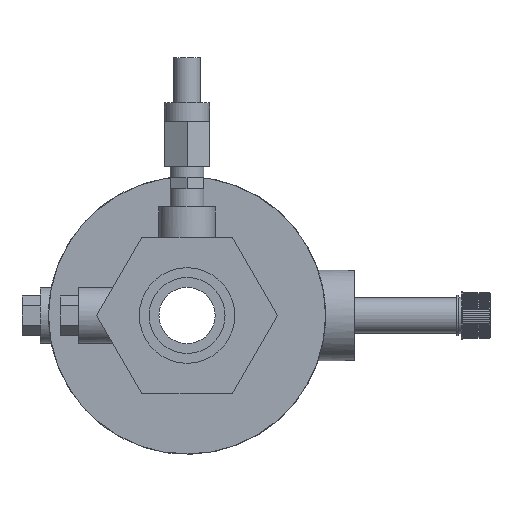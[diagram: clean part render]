
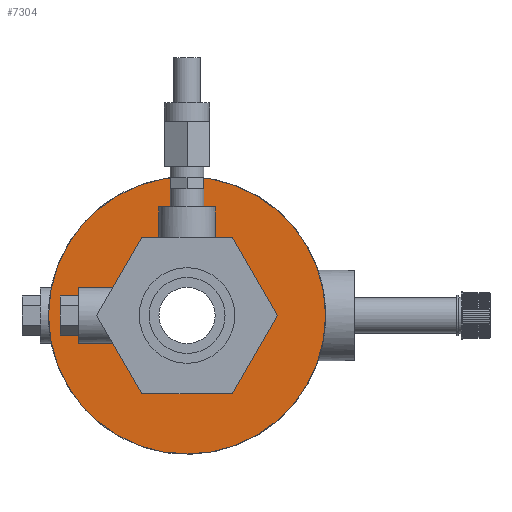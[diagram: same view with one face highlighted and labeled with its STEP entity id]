
A CAD part, left-side view. The second image highlights one B-rep face of the part: STEP entity #7304.
In plain terms, the highlighted planar face has unit normal (-1, 0, 0).
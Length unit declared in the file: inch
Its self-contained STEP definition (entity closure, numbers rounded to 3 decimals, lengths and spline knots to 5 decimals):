
#205=FACE_BOUND('',#1325,.T.);
#250=CIRCLE('',#7523,1.53174);
#251=CIRCLE('',#7524,1.53174);
#258=CIRCLE('',#7537,0.81689);
#260=CIRCLE('',#7539,0.81689);
#261=CIRCLE('',#7540,0.81689);
#941=FACE_OUTER_BOUND('',#1324,.T.);
#1324=EDGE_LOOP('',(#5881,#5882));
#1325=EDGE_LOOP('',(#5883,#5884,#5885,#5886,#5887,#5888,#5889,#5890,#5891));
#1568=LINE('',#10568,#2174);
#1574=LINE('',#10600,#2180);
#1575=LINE('',#10602,#2181);
#1581=LINE('',#10643,#2187);
#1584=LINE('',#10648,#2190);
#1585=LINE('',#10650,#2191);
#2174=VECTOR('',#8481,0.3937);
#2180=VECTOR('',#8493,0.3937);
#2181=VECTOR('',#8496,0.3937);
#2187=VECTOR('',#8518,0.3937);
#2190=VECTOR('',#8523,0.3937);
#2191=VECTOR('',#8526,0.3937);
#2746=VERTEX_POINT('',#10486);
#2754=VERTEX_POINT('',#10526);
#2761=VERTEX_POINT('',#10564);
#2763=VERTEX_POINT('',#10567);
#2767=VERTEX_POINT('',#10596);
#2768=VERTEX_POINT('',#10598);
#2769=VERTEX_POINT('',#10604);
#2771=VERTEX_POINT('',#10609);
#2774=VERTEX_POINT('',#10632);
#2777=VERTEX_POINT('',#10642);
#2778=VERTEX_POINT('',#10646);
#3503=EDGE_CURVE('',#2754,#2746,#250,.T.);
#3504=EDGE_CURVE('',#2746,#2754,#251,.T.);
#3514=EDGE_CURVE('',#2763,#2761,#1568,.T.);
#3522=EDGE_CURVE('',#2767,#2768,#1574,.T.);
#3523=EDGE_CURVE('',#2768,#2763,#1575,.T.);
#3524=EDGE_CURVE('',#2767,#2769,#258,.T.);
#3527=EDGE_CURVE('',#2769,#2771,#260,.T.);
#3531=EDGE_CURVE('',#2774,#2761,#261,.T.);
#3535=EDGE_CURVE('',#2777,#2771,#1581,.T.);
#3538=EDGE_CURVE('',#2774,#2778,#1584,.T.);
#3539=EDGE_CURVE('',#2778,#2777,#1585,.T.);
#5881=ORIENTED_EDGE('',*,*,#3503,.F.);
#5882=ORIENTED_EDGE('',*,*,#3504,.F.);
#5883=ORIENTED_EDGE('',*,*,#3523,.T.);
#5884=ORIENTED_EDGE('',*,*,#3514,.T.);
#5885=ORIENTED_EDGE('',*,*,#3531,.F.);
#5886=ORIENTED_EDGE('',*,*,#3538,.T.);
#5887=ORIENTED_EDGE('',*,*,#3539,.T.);
#5888=ORIENTED_EDGE('',*,*,#3535,.T.);
#5889=ORIENTED_EDGE('',*,*,#3527,.F.);
#5890=ORIENTED_EDGE('',*,*,#3524,.F.);
#5891=ORIENTED_EDGE('',*,*,#3522,.T.);
#6609=PLANE('',#7931);
#7304=ADVANCED_FACE('',(#941,#205),#6609,.T.);
#7523=AXIS2_PLACEMENT_3D('',#10537,#8460,#8461);
#7524=AXIS2_PLACEMENT_3D('',#10538,#8462,#8463);
#7537=AXIS2_PLACEMENT_3D('',#10605,#8499,#8500);
#7539=AXIS2_PLACEMENT_3D('',#10610,#8504,#8505);
#7540=AXIS2_PLACEMENT_3D('',#10634,#8508,#8509);
#7931=AXIS2_PLACEMENT_3D('',#12418,#9601,#9602);
#8460=DIRECTION('center_axis',(1.,0.,0.));
#8461=DIRECTION('ref_axis',(0.,0.,-1.));
#8462=DIRECTION('center_axis',(1.,0.,0.));
#8463=DIRECTION('ref_axis',(0.,0.,-1.));
#8481=DIRECTION('',(0.,-1.,0.));
#8493=DIRECTION('',(0.,1.,0.));
#8496=DIRECTION('',(0.,0.,1.));
#8499=DIRECTION('center_axis',(-1.,0.,0.));
#8500=DIRECTION('ref_axis',(0.,0.,
1.));
#8504=DIRECTION('center_axis',(-1.,0.,0.));
#8505=DIRECTION('ref_axis',(0.,0.,
1.));
#8508=DIRECTION('center_axis',(-1.,0.,0.));
#8509=DIRECTION('ref_axis',(0.,0.,
1.));
#8518=DIRECTION('',(0.,0.,-1.));
#8523=DIRECTION('',(0.,0.,1.));
#8526=DIRECTION('',(0.,-1.,0.));
#9601=DIRECTION('center_axis',(-1.,0.,0.));
#9602=DIRECTION('ref_axis',(0.,0.,1.));
#10486=CARTESIAN_POINT('',(-1.04,1.53174,0.));
#10526=CARTESIAN_POINT('',(-1.04,-1.53174,0.));
#10537=CARTESIAN_POINT('Origin',(-1.04,0.,0.));
#10538=CARTESIAN_POINT('Origin',(-1.04,0.,0.));
#10564=CARTESIAN_POINT('',(-1.04,0.75537,0.311));
#10567=CARTESIAN_POINT('',(-1.04,1.2,0.311));
#10568=CARTESIAN_POINT('',(-1.04,0.76587,0.311));
#10596=CARTESIAN_POINT('',(-1.04,0.75537,-0.311));
#10598=CARTESIAN_POINT('',(-1.04,1.2,-0.311));
#10600=CARTESIAN_POINT('',(-1.04,0.76587,-0.311));
#10602=CARTESIAN_POINT('',(-1.04,1.2,0.));
#10604=CARTESIAN_POINT('',(-1.04,0.,-0.81689));
#10605=CARTESIAN_POINT('Origin',(-1.04,0.,0.));
#10609=CARTESIAN_POINT('',(-1.04,-0.311,0.75537));
#10610=CARTESIAN_POINT('Origin',(-1.04,0.,0.));
#10632=CARTESIAN_POINT('',(-1.04,0.311,0.75537));
#10634=CARTESIAN_POINT('Origin',(-1.04,0.,0.));
#10642=CARTESIAN_POINT('',(-1.04,-0.311,1.2));
#10643=CARTESIAN_POINT('',(-1.04,-0.311,0.));
#10646=CARTESIAN_POINT('',(-1.04,0.311,1.2));
#10648=CARTESIAN_POINT('',(-1.04,0.311,0.));
#10650=CARTESIAN_POINT('',(-1.04,0.76587,1.2));
#12418=CARTESIAN_POINT('Origin',(-1.04,1.53174,0.));
